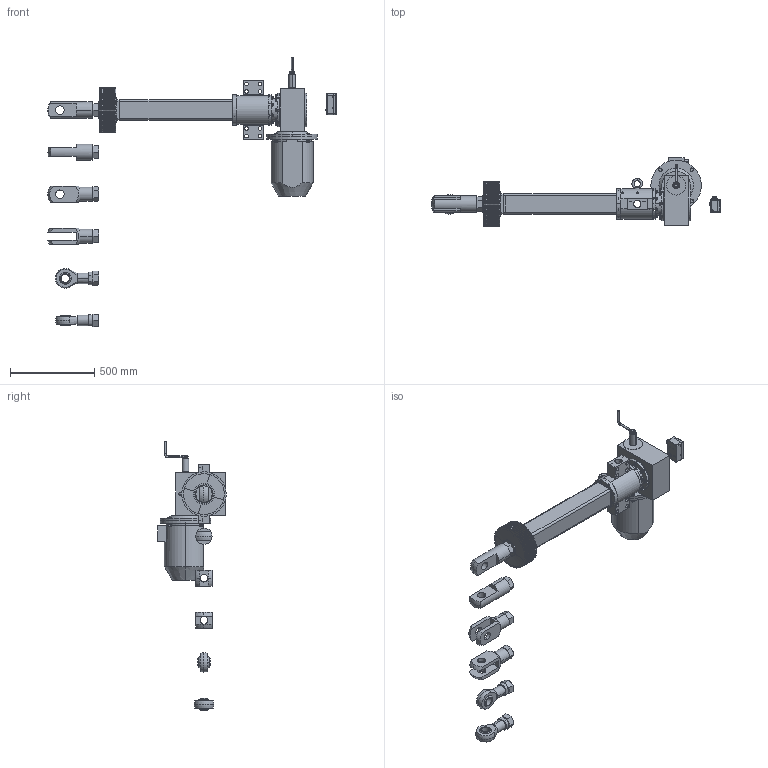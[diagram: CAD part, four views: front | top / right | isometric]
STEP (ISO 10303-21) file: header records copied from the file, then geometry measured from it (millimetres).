
FILE_DESCRIPTION (( 'STEP AP203' ), '1' );
FILE_NAME ('Ì4 10 500.STEP', '2016-12-21T09:05:07', ( '' ), ( '' ), 'SwSTEP 2.0', 'SolidWorks 2012', '' );
FILE_SCHEMA (( 'CONFIG_CONTROL_DESIGN' ));
Products named in the file (9): ﾌ4 10 500; 迕10; 苂10; 迍 10; ﾁﾑﾏ; Ãîôð Ñ4_•®¤600; ﾒ矜 10_憤､ 500; ﾑ4 10 1; ﾌ4 10 矜鈞
Assembly tree (10 placements, depth 2):
  ﾌ4 10 500
    ﾌ4 10 矜鈞
    ﾑ4 10 1
    ﾒ矜 10_憤､ 500
    Ãîôð Ñ4_•®¤600
    ﾁﾑﾏ
    迍 10
    苂10  x2
    迕10  x2
Bounding box: 1716 x 405.76 x 1601 mm (x, y, z)
Volume: 1796528.1 mm3; surface area: 6254054.4 mm2
Topology: 1 solids, 211 shells, 1906 faces, 5216 edges, 3541 vertices
Faces by surface type: plane 759, cylinder 599, cone 414, torus 62, sphere 60, bspline 12
Entity records: 62601 total; most frequent: CARTESIAN_POINT 15144, DIRECTION 10383, ORIENTED_EDGE 8387, EDGE_CURVE 4956, AXIS2_PLACEMENT_3D 4163, VERTEX_POINT 3384, CIRCLE 2328, EDGE_LOOP 2180
